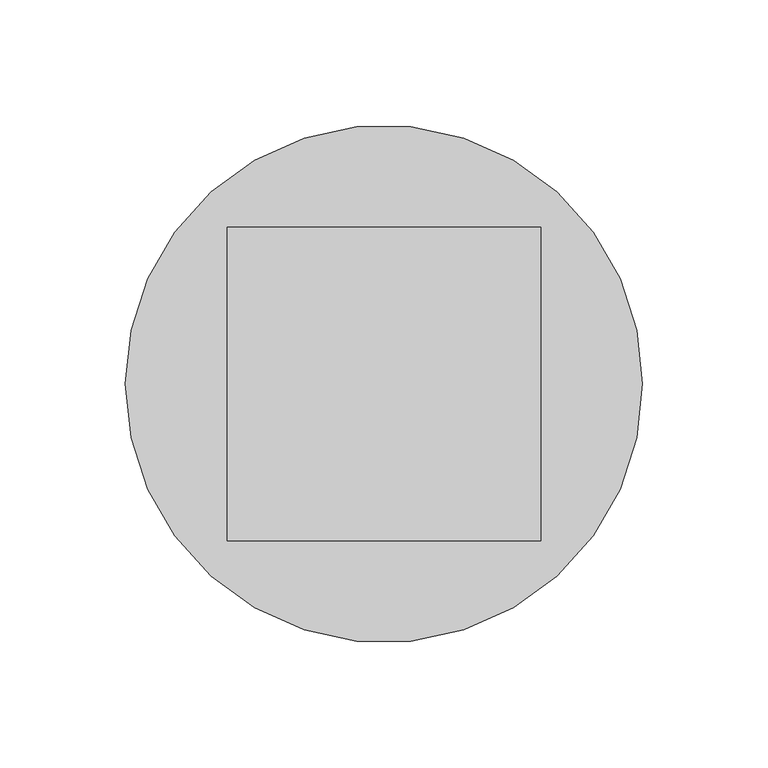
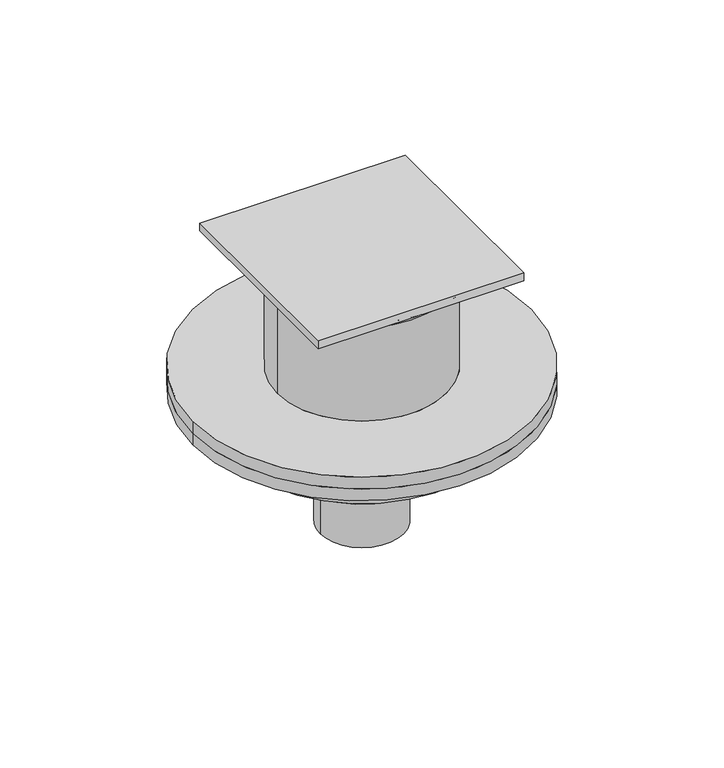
"""IFC4 building model written with IfcOpenShell, lengths in millimetres: flow terminal geometry, Siphon de sol - Rectangulaire : Filtre à tamis 125 mmx125 mm - Tuyau d'évacuation 50 mm."""

from ifc_helpers import new_model, si_unit, frame, origin, place, context, project, spatial, polyline, circle_curve, source, transform, mapped, element, save
from ifc_brep_helpers import plane_surface, cylinder_surface, revolved_surface, advanced_brep


def flow_terminal_2df10976(model_context):
    return source(origin(), model_context, "Body", "AdvancedBrep", [
        advanced_brep(
        [(103.0, 0.0, -75.38), (-103.0, 0.0, -75.38), (-51.5, 0.0, -75.38), (51.5, 0.0, -75.38), (103.0, 0.0, -83.0), (-103.0, 0.0, -83.0), (51.5, 0.0, -15.24), (-51.5, 0.0, -15.24), (-62.5, 0.0, -5.08), (0.0, 62.5, -5.08), (62.5, 0.0, -5.08), (0.0, -62.5, -5.08), (62.5, 62.5, 0.0), (-62.5, 62.5, 0.0), (-62.5, -62.5, 0.0), (62.5, -62.5, 0.0), (-62.5, -62.5, -5.08), (-62.5, 62.5, -5.08), (62.5, 62.5, -5.08), (62.5, -62.5, -5.08)],
        [
            (0, 1, circle_curve(frame((0.0, 0.0, -75.38), z_axis=(0.0, 0.0, 1.0), x_axis=(-1.0, 0.0, 0.0)), 103.0)),
            (1, 0, circle_curve(frame((0.0, 0.0, -75.38), z_axis=(0.0, 0.0, 1.0), x_axis=(-1.0, 0.0, 0.0)), 103.0)),
            (2, 3, circle_curve(frame((0.0, 0.0, -75.38), z_axis=(0.0, 0.0, -1.0), x_axis=(-1.0, 0.0, 0.0)), 51.5)),
            (3, 2, circle_curve(frame((0.0, 0.0, -75.38), z_axis=(0.0, 0.0, -1.0), x_axis=(-1.0, 0.0, 0.0)), 51.5)),
            (4, 5, circle_curve(frame((0.0, 0.0, -83.0), z_axis=(0.0, 0.0, -1.0), x_axis=(-1.0, 0.0, 0.0)), 103.0)),
            (5, 4, circle_curve(frame((0.0, 0.0, -83.0), z_axis=(0.0, 0.0, -1.0), x_axis=(-1.0, 0.0, 0.0)), 103.0)),
            (0, 4),
            (5, 1),
            (6, 3),
            (2, 7),
            (7, 6, circle_curve(frame((0.0, 0.0, -15.24), z_axis=(0.0, 0.0, -1.0), x_axis=(-1.0, 0.0, 0.0)), 51.5)),
            (6, 7, circle_curve(frame((0.0, 0.0, -15.24), z_axis=(0.0, 0.0, -1.0), x_axis=(-1.0, 0.0, 0.0)), 51.5)),
            (7, 8),
            (8, 9, circle_curve(frame((0.0, 0.0, -5.08), z_axis=(0.0, 0.0, -1.0), x_axis=(-1.0, 0.0, 0.0)), 62.5)),
            (9, 10, circle_curve(frame((0.0, 0.0, -5.08), z_axis=(0.0, 0.0, -1.0), x_axis=(-1.0, 0.0, 0.0)), 62.5)),
            (10, 6),
            (10, 11, circle_curve(frame((0.0, 0.0, -5.08), z_axis=(0.0, 0.0, -1.0), x_axis=(-1.0, 0.0, 0.0)), 62.5)),
            (11, 8, circle_curve(frame((0.0, 0.0, -5.08), z_axis=(0.0, 0.0, -1.0), x_axis=(-1.0, 0.0, 0.0)), 62.5)),
            (12, 13),
            (13, 14),
            (14, 15),
            (15, 12),
            (16, 8),
            (11, 16),
            (8, 17),
            (17, 9),
            (18, 10),
            (9, 18),
            (10, 19),
            (19, 11),
            (12, 18),
            (17, 13),
            (16, 14),
            (19, 15),
        ],
        [
            plane_surface(frame((-103.0, 0.0, -75.38), z_axis=(0.0, 0.0, 1.0), x_axis=(0.0, -1.0, 0.0))),
            plane_surface(frame((-103.0, 0.0, -83.0), z_axis=(0.0, 0.0, -1.0), x_axis=(0.0, 1.0, 0.0))),
            cylinder_surface(frame((0.0, 0.0, -83.0), z_axis=(0.0, 0.0, 1.0), x_axis=(-1.0, 0.0, 0.0)), 103.0),
            cylinder_surface(frame((0.0, 0.0, -75.38), z_axis=(0.0, 0.0, 1.0), x_axis=(-1.0, 0.0, 0.0)), 51.5),
            revolved_surface(polyline([(-62.5, 0.0, -5.08), (-51.5, 0.0, -15.24)]), (0.0, 0.0, -5.08), (0.0, 0.0, -1.0)),
            plane_surface(frame((-62.5, 62.5, 0.0), z_axis=(0.0, 0.0, 1.0), x_axis=(-1.0, 0.0, 0.0))),
            plane_surface(frame((-62.5, 62.5, -5.08), z_axis=(0.0, 0.0, -1.0), x_axis=(1.0, 0.0, 0.0))),
            plane_surface(frame((62.5, 62.5, 0.0), z_axis=(0.0, 1.0, 0.0), x_axis=(0.0, 0.0, -1.0))),
            plane_surface(frame((-62.5, 62.5, 0.0), z_axis=(-1.0, 0.0, 0.0), x_axis=(0.0, 0.0, -1.0))),
            plane_surface(frame((-62.5, -62.5, 0.0), z_axis=(0.0, -1.0, 0.0), x_axis=(0.0, 0.0, -1.0))),
            plane_surface(frame((62.5, -62.5, 0.0), z_axis=(1.0, 0.0, 0.0), x_axis=(0.0, 0.0, -1.0))),
        ],
        [
            (0, [[1, 2], [3, 4]]),
            (1, [[5, 6]]),
            (2, [[-1, 7, -6, 8]]),
            (2, [[-2, -8, -5, -7]]),
            (3, [[9, -3, 10, 11]]),
            (3, [[-9, 12, -10, -4]]),
            (4, [[13, 14, 15, 16, -11]]),
            (4, [[-13, -12, -16, 17, 18]]),
            (5, [[19, 20, 21, 22]]),
            (6, [[23, -18, 24]]),
            (6, [[25, 26, -14]]),
            (6, [[27, -15, 28]]),
            (6, [[29, 30, -17]]),
            (7, [[-19, 31, -28, -26, 32]]),
            (8, [[-20, -32, -25, -23, 33]]),
            (9, [[-21, -33, -24, -30, 34]]),
            (10, [[-22, -34, -29, -27, -31]]),
        ],
    ),
        advanced_brep(
        [(103.0, 0.0, -83.0), (-103.0, 0.0, -83.0), (103.0, 0.0, -90.62), (-103.0, 0.0, -90.62), (77.1333333, 0.0, -90.62), (-77.1333333, 0.0, -90.62), (77.1333333, 0.0, -110.6), (-77.1333333, 0.0, -110.6), (51.2666667, 0.0, -110.6), (-51.2666667, 0.0, -110.6), (25.4, 0.0, -175.0), (-25.4, 0.0, -175.0), (-25.4, 0.0, -129.0), (25.4, 0.0, -129.0), (51.2666667, 0.0, -129.0), (-51.2666667, 0.0, -129.0)],
        [
            (0, 1, circle_curve(frame((0.0, 0.0, -83.0), z_axis=(0.0, 0.0, 1.0), x_axis=(-1.0, 0.0, 0.0)), 103.0)),
            (1, 0, circle_curve(frame((0.0, 0.0, -83.0), z_axis=(0.0, 0.0, 1.0), x_axis=(-1.0, 0.0, 0.0)), 103.0)),
            (2, 3, circle_curve(frame((0.0, 0.0, -90.62), z_axis=(0.0, 0.0, -1.0), x_axis=(-1.0, 0.0, 0.0)), 103.0)),
            (3, 2, circle_curve(frame((0.0, 0.0, -90.62), z_axis=(0.0, 0.0, -1.0), x_axis=(-1.0, 0.0, 0.0)), 103.0)),
            (4, 5, circle_curve(frame((0.0, 0.0, -90.62), z_axis=(0.0, 0.0, 1.0), x_axis=(-1.0, 0.0, 0.0)), 77.1333333)),
            (5, 4, circle_curve(frame((0.0, 0.0, -90.62), z_axis=(0.0, 0.0, 1.0), x_axis=(-1.0, 0.0, 0.0)), 77.1333333)),
            (0, 2),
            (3, 1),
            (6, 7, circle_curve(frame((0.0, 0.0, -110.6), z_axis=(0.0, 0.0, -1.0), x_axis=(-1.0, 0.0, 0.0)), 77.1333333)),
            (7, 6, circle_curve(frame((0.0, 0.0, -110.6), z_axis=(0.0, 0.0, -1.0), x_axis=(-1.0, 0.0, 0.0)), 77.1333333)),
            (8, 9, circle_curve(frame((0.0, 0.0, -110.6), z_axis=(0.0, 0.0, 1.0), x_axis=(-1.0, 0.0, 0.0)), 51.2666667)),
            (9, 8, circle_curve(frame((0.0, 0.0, -110.6), z_axis=(0.0, 0.0, 1.0), x_axis=(-1.0, 0.0, 0.0)), 51.2666667)),
            (7, 5),
            (4, 6),
            (10, 11, circle_curve(frame((0.0, 0.0, -175.0), z_axis=(0.0, 0.0, -1.0), x_axis=(-1.0, 0.0, 0.0)), 25.4)),
            (11, 10, circle_curve(frame((0.0, 0.0, -175.0), z_axis=(0.0, 0.0, -1.0), x_axis=(-1.0, 0.0, 0.0)), 25.4)),
            (11, 12),
            (12, 13, circle_curve(frame((0.0, 0.0, -129.0), z_axis=(0.0, 0.0, -1.0), x_axis=(-1.0, 0.0, 0.0)), 25.4)),
            (13, 10),
            (13, 12, circle_curve(frame((0.0, 0.0, -129.0), z_axis=(0.0, 0.0, -1.0), x_axis=(-1.0, 0.0, 0.0)), 25.4)),
            (14, 15, circle_curve(frame((0.0, 0.0, -129.0), z_axis=(0.0, 0.0, -1.0), x_axis=(-1.0, 0.0, 0.0)), 51.2666667)),
            (15, 14, circle_curve(frame((0.0, 0.0, -129.0), z_axis=(0.0, 0.0, -1.0), x_axis=(-1.0, 0.0, 0.0)), 51.2666667)),
            (15, 9),
            (8, 14),
        ],
        [
            plane_surface(frame((-103.0, 0.0, -83.0), z_axis=(0.0, 0.0, 1.0), x_axis=(0.0, -1.0, 0.0))),
            plane_surface(frame((-103.0, 0.0, -90.62), z_axis=(0.0, 0.0, -1.0), x_axis=(0.0, 1.0, 0.0))),
            cylinder_surface(frame((0.0, 0.0, -90.62), z_axis=(0.0, 0.0, 1.0), x_axis=(-1.0, 0.0, 0.0)), 103.0),
            plane_surface(frame((-77.1333333, 0.0, -110.6), z_axis=(0.0, 0.0, -1.0), x_axis=(0.0, 1.0, 0.0))),
            cylinder_surface(frame((0.0, 0.0, -110.6), z_axis=(0.0, 0.0, 1.0), x_axis=(-1.0, 0.0, 0.0)), 77.1333333),
            plane_surface(frame((-25.4, 0.0, -175.0), z_axis=(0.0, 0.0, -1.0), x_axis=(0.0, 1.0, 0.0))),
            cylinder_surface(frame((0.0, 0.0, -175.0), z_axis=(0.0, 0.0, 1.0), x_axis=(-1.0, 0.0, 0.0)), 25.4),
            plane_surface(frame((-51.2666667, 0.0, -129.0), z_axis=(0.0, 0.0, -1.0), x_axis=(0.0, 1.0, 0.0))),
            cylinder_surface(frame((0.0, 0.0, -129.0), z_axis=(0.0, 0.0, 1.0), x_axis=(-1.0, 0.0, 0.0)), 51.2666667),
        ],
        [
            (0, [[1, 2]]),
            (1, [[3, 4], [5, 6]]),
            (2, [[-1, 7, -4, 8]]),
            (2, [[-2, -8, -3, -7]]),
            (3, [[9, 10], [11, 12]]),
            (4, [[-10, 13, -5, 14]]),
            (4, [[-9, -14, -6, -13]]),
            (5, [[15, 16]]),
            (6, [[-16, 17, 18, 19]]),
            (6, [[-15, -19, 20, -17]]),
            (7, [[21, 22], [-18, -20]]),
            (8, [[-22, 23, -11, 24]]),
            (8, [[-21, -24, -12, -23]]),
        ],
    ),
    ])


if __name__ == "__main__":
    model = new_model("IFC4")
    model_context = context("Model", 3, world=origin())
    ifc_project = project(units=[si_unit("LENGTHUNIT", "METRE", prefix="MILLI")], contexts=[model_context])
    site = spatial("IfcSite", under=ifc_project)
    building = spatial("IfcBuilding", under=site)
    placement = place(None, origin())
    flow_terminal_shape = flow_terminal_2df10976(model_context)
    element("IfcFlowTerminal", 1, ObjectType="Siphon de sol - Rectangulaire : Filtre à tamis 125 mmx125 mm - Tuyau d'évacuation 50 mm", at=placement, inside=building, context=model_context, shape_type="MappedRepresentation", body=[
        mapped(flow_terminal_shape, transform((0.0, 0.0, 0.0), x_axis=(1.0, 0.0, 0.0), y_axis=(0.0, 1.0, 0.0), z_axis=(0.0, 0.0, 1.0))),
    ])
    save(model, "model.ifc")
